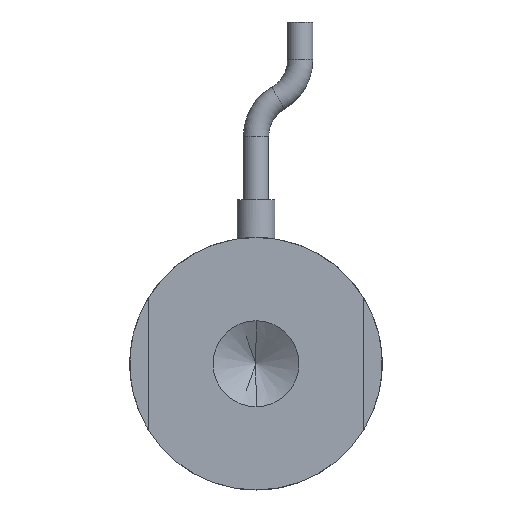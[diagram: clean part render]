
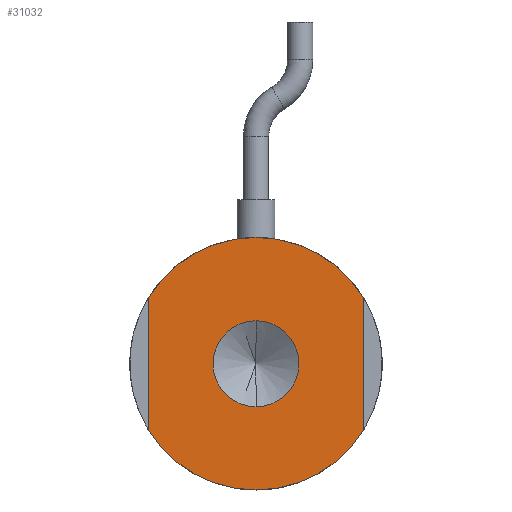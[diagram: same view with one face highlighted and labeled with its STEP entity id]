
A CAD part, front view. The second image highlights one B-rep face of the part: STEP entity #31032.
In plain terms, the highlighted planar face has unit normal (0, -1, 0).
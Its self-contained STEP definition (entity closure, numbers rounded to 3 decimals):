
#1667 = AXIS2_PLACEMENT_3D ( 'NONE', #30344, #10472, #33698 ) ;
#1705 = CIRCLE ( 'NONE', #9104, 10. ) ;
#1854 = CARTESIAN_POINT ( 'NONE',  ( 8.5, 0., -5.268 ) ) ;
#2283 = DIRECTION ( 'NONE',  ( 0., -1., 0. ) ) ;
#2987 = CARTESIAN_POINT ( 'NONE',  ( 8.5, 0., 0. ) ) ;
#3777 = EDGE_CURVE ( 'NONE', #34367, #22230, #34595, .T. ) ;
#5592 = VECTOR ( 'NONE', #11867, 1000. ) ;
#6772 = DIRECTION ( 'NONE',  ( 0., 1., 0. ) ) ;
#7383 = CARTESIAN_POINT ( 'NONE',  ( 8.5, 0., 5.268 ) ) ;
#8593 = AXIS2_PLACEMENT_3D ( 'NONE', #36902, #16986, #40225 ) ;
#9104 = AXIS2_PLACEMENT_3D ( 'NONE', #35144, #15278, #38510 ) ;
#10088 = CARTESIAN_POINT ( 'NONE',  ( -8.5, 0., -5.268 ) ) ;
#10472 = DIRECTION ( 'NONE',  ( 0., 1., 0. ) ) ;
#11001 = DIRECTION ( 'NONE',  ( 0., 1., 0. ) ) ;
#11867 = DIRECTION ( 'NONE',  ( 0., 0., 1. ) ) ;
#12608 = ORIENTED_EDGE ( 'NONE', *, *, #37990, .F. ) ;
#12836 = ORIENTED_EDGE ( 'NONE', *, *, #3777, .F. ) ;
#13069 = ORIENTED_EDGE ( 'NONE', *, *, #19121, .F. ) ;
#13379 = EDGE_LOOP ( 'NONE', ( #26546, #13069 ) ) ;
#15048 = CIRCLE ( 'NONE', #1667, 10. ) ;
#15278 = DIRECTION ( 'NONE',  ( 0., 1., 0. ) ) ;
#15578 = EDGE_CURVE ( 'NONE', #25760, #34367, #1705, .T. ) ;
#15786 = DIRECTION ( 'NONE',  ( 0., 1., 0. ) ) ;
#15932 = EDGE_CURVE ( 'NONE', #29181, #25760, #25154, .T. ) ;
#16195 = VERTEX_POINT ( 'NONE', #32301 ) ;
#16456 = ORIENTED_EDGE ( 'NONE', *, *, #24840, .F. ) ;
#16918 = VECTOR ( 'NONE', #25459, 1000. ) ;
#16986 = DIRECTION ( 'NONE',  ( 0., -1., 0. ) ) ;
#19121 = EDGE_CURVE ( 'NONE', #22285, #16195, #31784, .T. ) ;
#19756 = ORIENTED_EDGE ( 'NONE', *, *, #29286, .F. ) ;
#20383 = CARTESIAN_POINT ( 'NONE',  ( 0., 0., 0. ) ) ;
#21655 = ORIENTED_EDGE ( 'NONE', *, *, #15578, .F. ) ;
#21716 = AXIS2_PLACEMENT_3D ( 'NONE', #22162, #2283, #25584 ) ;
#22162 = CARTESIAN_POINT ( 'NONE',  ( 0., 0., 0. ) ) ;
#22230 = VERTEX_POINT ( 'NONE', #1854 ) ;
#22285 = VERTEX_POINT ( 'NONE', #35304 ) ;
#22725 = CARTESIAN_POINT ( 'NONE',  ( 0., 0., -10. ) ) ;
#23019 = AXIS2_PLACEMENT_3D ( 'NONE', #35691, #15786, #39025 ) ;
#23753 = VERTEX_POINT ( 'NONE', #22725 ) ;
#24840 = EDGE_CURVE ( 'NONE', #23753, #25556, #15048, .T. ) ;
#25134 = EDGE_CURVE ( 'NONE', #16195, #22285, #38416, .T. ) ;
#25154 = CIRCLE ( 'NONE', #33571, 10. ) ;
#25459 = DIRECTION ( 'NONE',  ( 0., 0., -1. ) ) ;
#25556 = VERTEX_POINT ( 'NONE', #10088 ) ;
#25584 = DIRECTION ( 'NONE',  ( 0., 0., -1. ) ) ;
#25760 = VERTEX_POINT ( 'NONE', #31234 ) ;
#26546 = ORIENTED_EDGE ( 'NONE', *, *, #25134, .F. ) ;
#26708 = CARTESIAN_POINT ( 'NONE',  ( 0., 0., 0. ) ) ;
#27265 = AXIS2_PLACEMENT_3D ( 'NONE', #20383, #11001, #34214 ) ;
#27559 = EDGE_LOOP ( 'NONE', ( #12608, #16456, #19756, #12836, #21655, #28909 ) ) ;
#28909 = ORIENTED_EDGE ( 'NONE', *, *, #15932, .F. ) ;
#29181 = VERTEX_POINT ( 'NONE', #30414 ) ;
#29286 = EDGE_CURVE ( 'NONE', #22230, #23753, #43036, .T. ) ;
#30030 = DIRECTION ( 'NONE',  ( 0., 0., 1. ) ) ;
#30344 = CARTESIAN_POINT ( 'NONE',  ( 0., 0., 0. ) ) ;
#30414 = CARTESIAN_POINT ( 'NONE',  ( -8.5, 0., 5.268 ) ) ;
#30848 = PLANE ( 'NONE',  #27265 ) ;
#30995 = FACE_BOUND ( 'NONE', #13379, .T. ) ;
#31032 = ADVANCED_FACE ( 'NONE', ( #30995, #40898 ), #30848, .F. ) ;
#31234 = CARTESIAN_POINT ( 'NONE',  ( 0., 0., 10. ) ) ;
#31784 = CIRCLE ( 'NONE', #8593, 3.4 ) ;
#31859 = CARTESIAN_POINT ( 'NONE',  ( -8.5, 0., 0. ) ) ;
#32301 = CARTESIAN_POINT ( 'NONE',  ( 0., 0., -3.4 ) ) ;
#33121 = LINE ( 'NONE', #31859, #5592 ) ;
#33571 = AXIS2_PLACEMENT_3D ( 'NONE', #26708, #6772, #30030 ) ;
#33698 = DIRECTION ( 'NONE',  ( 0., 0., 1. ) ) ;
#34214 = DIRECTION ( 'NONE',  ( 0., 0., 1. ) ) ;
#34367 = VERTEX_POINT ( 'NONE', #7383 ) ;
#34595 = LINE ( 'NONE', #2987, #16918 ) ;
#35144 = CARTESIAN_POINT ( 'NONE',  ( 0., 0., 0. ) ) ;
#35304 = CARTESIAN_POINT ( 'NONE',  ( 0., 0., 3.4 ) ) ;
#35691 = CARTESIAN_POINT ( 'NONE',  ( 0., 0., 0. ) ) ;
#36902 = CARTESIAN_POINT ( 'NONE',  ( 0., 0., 0. ) ) ;
#37990 = EDGE_CURVE ( 'NONE', #25556, #29181, #33121, .T. ) ;
#38416 = CIRCLE ( 'NONE', #21716, 3.4 ) ;
#38510 = DIRECTION ( 'NONE',  ( 0., 0., 1. ) ) ;
#39025 = DIRECTION ( 'NONE',  ( 0., 0., 1. ) ) ;
#40225 = DIRECTION ( 'NONE',  ( 0., 0., -1. ) ) ;
#40898 = FACE_OUTER_BOUND ( 'NONE', #27559, .T. ) ;
#43036 = CIRCLE ( 'NONE', #23019, 10. ) ;
